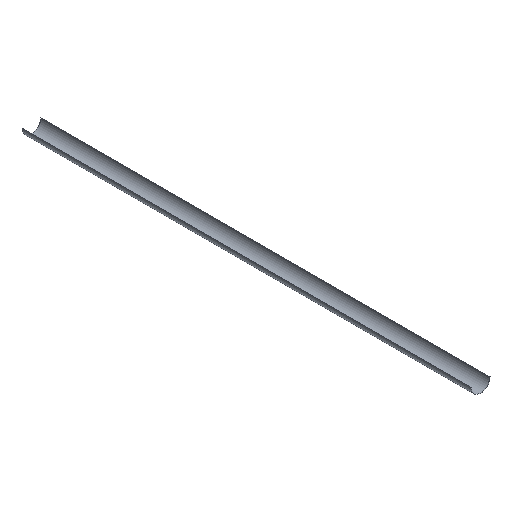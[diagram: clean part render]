
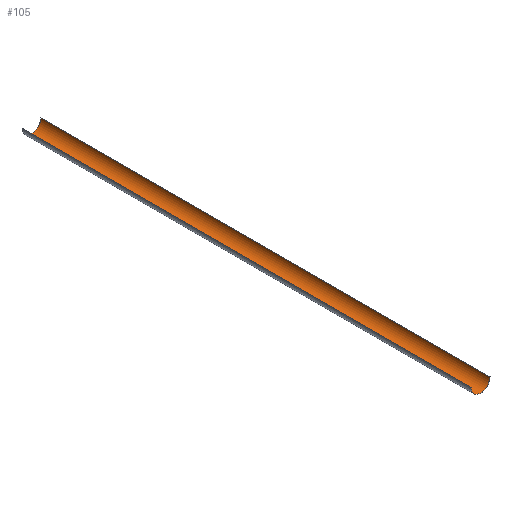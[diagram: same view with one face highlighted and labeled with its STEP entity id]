
A CAD part, isometric view. The second image highlights one B-rep face of the part: STEP entity #105.
In plain terms, the highlighted cylindrical face has radius 62.5 mm (diameter 125 mm), a partial arc.
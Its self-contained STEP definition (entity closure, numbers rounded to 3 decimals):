
#13=CYLINDRICAL_SURFACE($,#117,62.5);
#18=FACE_OUTER_BOUND($,#24,.T.);
#24=EDGE_LOOP($,(#82,#83,#84,#85));
#26=CIRCLE($,#111,62.5);
#29=CIRCLE($,#118,62.5);
#34=LINE($,#165,#42);
#37=LINE($,#173,#45);
#42=VECTOR($,#134,3000.);
#45=VECTOR($,#143,3000.);
#46=VERTEX_POINT($,#152);
#48=VERTEX_POINT($,#155);
#50=VERTEX_POINT($,#161);
#53=VERTEX_POINT($,#171);
#55=EDGE_CURVE($,#48,#46,#26,.T.);
#60=EDGE_CURVE($,#50,#48,#34,.T.);
#64=EDGE_CURVE($,#46,#53,#37,.T.);
#65=EDGE_CURVE($,#53,#50,#29,.T.);
#82=ORIENTED_EDGE($,*,*,#65,.T.);
#83=ORIENTED_EDGE($,*,*,#60,.T.);
#84=ORIENTED_EDGE($,*,*,#55,.T.);
#85=ORIENTED_EDGE($,*,*,#64,.T.);
#105=ADVANCED_FACE($,(#18),#13,.F.);
#111=AXIS2_PLACEMENT_3D($,#156,#125,#126);
#117=AXIS2_PLACEMENT_3D($,#174,#144,#145);
#118=AXIS2_PLACEMENT_3D($,#175,#146,#147);
#125=DIRECTION('center_axis',(0.,-1.,0.));
#126=DIRECTION('ref_axis',(-1.,0.,0.));
#134=DIRECTION($,(0.,-1.,0.));
#143=DIRECTION($,(0.,1.,0.));
#144=DIRECTION('center_axis',(0.,1.,0.));
#145=DIRECTION('ref_axis',(-1.,0.,0.));
#146=DIRECTION('center_axis',(0.,1.,0.));
#147=DIRECTION('ref_axis',(-1.,0.,0.));
#152=CARTESIAN_POINT('',(62.5,-1500.,0.));
#155=CARTESIAN_POINT('',(-62.5,-1500.,0.));
#156=CARTESIAN_POINT('Origin',(0.,-1500.,0.));
#161=CARTESIAN_POINT('',(-62.5,1500.,0.));
#165=CARTESIAN_POINT($,(-62.5,0.,0.));
#171=CARTESIAN_POINT('',(62.5,1500.,0.));
#173=CARTESIAN_POINT($,(62.5,0.,0.));
#174=CARTESIAN_POINT('Origin',(0.,0.,0.));
#175=CARTESIAN_POINT('Origin',(0.,1500.,0.));
